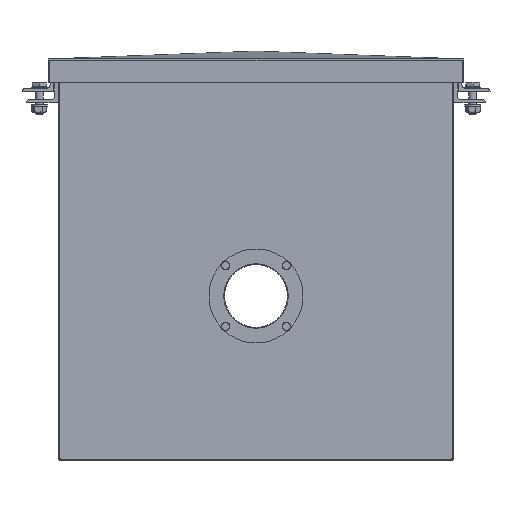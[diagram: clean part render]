
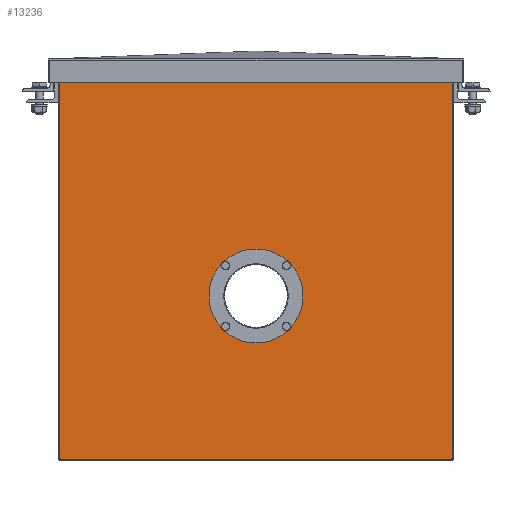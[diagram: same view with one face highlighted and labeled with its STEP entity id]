
A CAD part, left-side view. The second image highlights one B-rep face of the part: STEP entity #13236.
In plain terms, the highlighted planar face has unit normal (-1, 0, 0).
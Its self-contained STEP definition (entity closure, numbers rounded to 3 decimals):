
#388=LINE('',#20917,#1257);
#389=LINE('',#20919,#1258);
#390=LINE('',#20921,#1259);
#391=LINE('',#20922,#1260);
#1257=VECTOR('',#16761,500.);
#1258=VECTOR('',#16762,498.016);
#1259=VECTOR('',#16763,500.);
#1260=VECTOR('',#16764,498.016);
#2298=PLANE('',#14350);
#2857=FACE_BOUND('',#4349,.T.);
#3410=FACE_OUTER_BOUND('',#4348,.T.);
#4348=EDGE_LOOP('',(#10047,#10048,#10049,#10050));
#4349=EDGE_LOOP('',(#10051));
#5171=CIRCLE('',#14344,60.);
#6015=VERTEX_POINT('',#20903);
#6020=VERTEX_POINT('',#20915);
#6021=VERTEX_POINT('',#20916);
#6022=VERTEX_POINT('',#20918);
#6023=VERTEX_POINT('',#20920);
#7467=EDGE_CURVE('',#6015,#6015,#5171,.T.);
#7472=EDGE_CURVE('',#6020,#6021,#388,.T.);
#7473=EDGE_CURVE('',#6022,#6021,#389,.T.);
#7474=EDGE_CURVE('',#6023,#6022,#390,.T.);
#7475=EDGE_CURVE('',#6020,#6023,#391,.T.);
#10047=ORIENTED_EDGE('',*,*,#7472,.T.);
#10048=ORIENTED_EDGE('',*,*,#7473,.F.);
#10049=ORIENTED_EDGE('',*,*,#7474,.F.);
#10050=ORIENTED_EDGE('',*,*,#7475,.F.);
#10051=ORIENTED_EDGE('',*,*,#7467,.T.);
#13236=ADVANCED_FACE('',(#3410,#2857),#2298,.T.);
#14344=AXIS2_PLACEMENT_3D('',#20904,#16747,#16748);
#14350=AXIS2_PLACEMENT_3D('',#20914,#16759,#16760);
#16747=DIRECTION('center_axis',(1.,0.,0.));
#16748=DIRECTION('ref_axis',(0.,-0.707,-0.707));
#16759=DIRECTION('center_axis',(-1.,0.,0.));
#16760=DIRECTION('ref_axis',(0.,-1.,0.));
#16761=DIRECTION('',(0.,1.,0.));
#16762=DIRECTION('',(0.,0.,1.));
#16763=DIRECTION('',(0.,1.,0.));
#16764=DIRECTION('',(0.,0.,-1.));
#20903=CARTESIAN_POINT('',(-371.984,42.426,252.411));
#20904=CARTESIAN_POINT('Origin',(-371.984,0.,209.984));
#20914=CARTESIAN_POINT('Origin',(-371.984,0.,251.984));
#20915=CARTESIAN_POINT('',(-371.984,-250.,500.001));
#20916=CARTESIAN_POINT('',(-371.984,250.,500.001));
#20917=CARTESIAN_POINT('',(-371.984,125.,500.001));
#20918=CARTESIAN_POINT('',(-371.984,250.,1.984));
#20919=CARTESIAN_POINT('',(-371.984,250.,501.984));
#20920=CARTESIAN_POINT('',(-371.984,-250.,1.984));
#20921=CARTESIAN_POINT('',(-371.984,250.,1.984));
#20922=CARTESIAN_POINT('',(-371.984,-250.,1.984));
